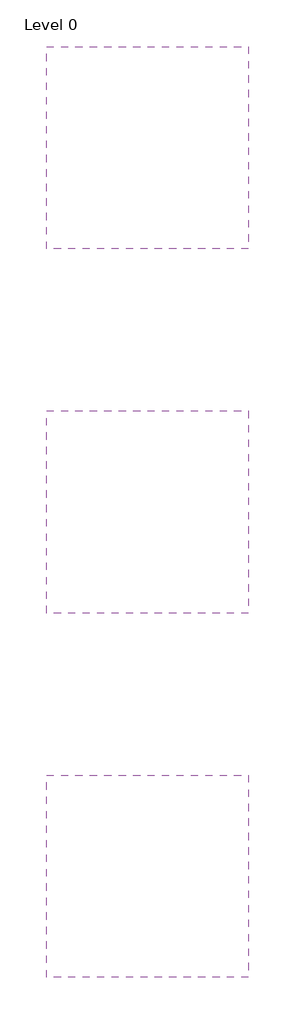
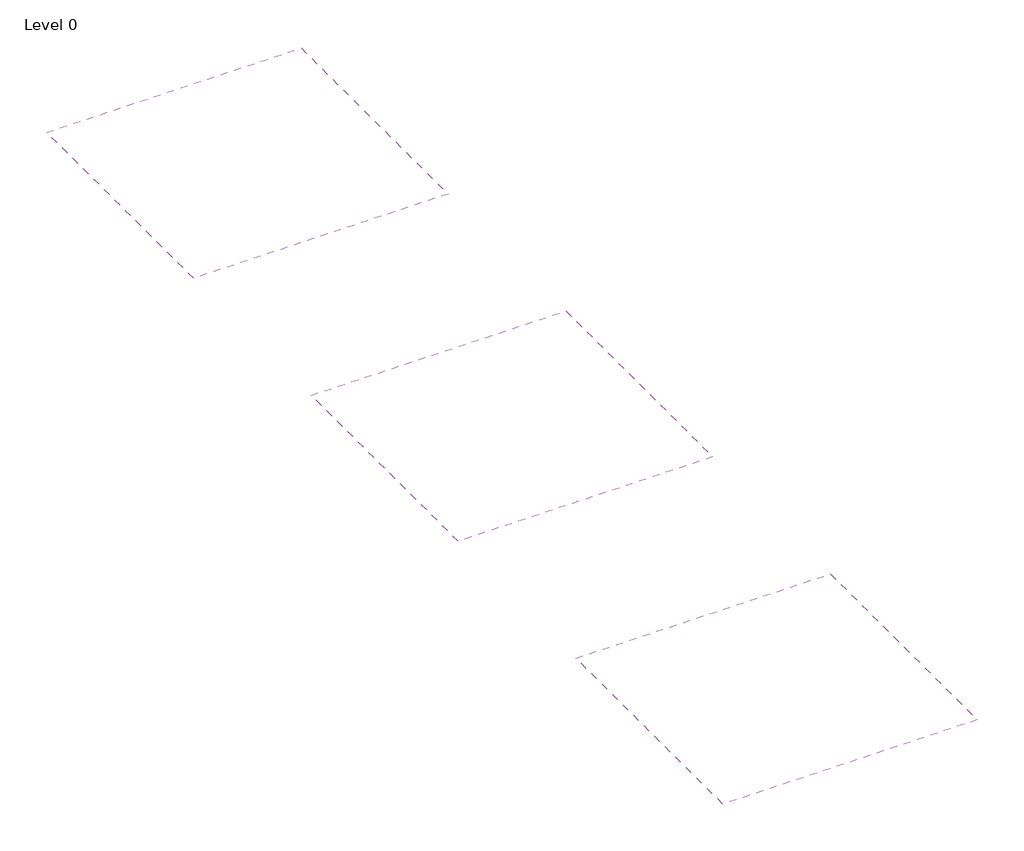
# One storey: 3 coverings.
"""IFC4 building model written with IfcOpenShell, lengths in millimetres."""

from ifc_helpers import new_model, si_unit, frame, origin, place, context, project, spatial, polyline, outline, extrude, element, save

model = new_model("IFC4")

# Units and contexts
model_context = context("Model", 3, world=origin())
ifc_project = project(units=[si_unit("LENGTHUNIT", "METRE", prefix="MILLI")], contexts=[model_context])

# Site, building, storey
site = spatial("IfcSite", under=ifc_project)
building = spatial("IfcBuilding", under=site)
storey = spatial("IfcBuildingStorey", under=building, Name="Level 0", Elevation=0.0)

# Coverings
placement = place(None, origin())
element("IfcCovering", 1, ObjectType="NBS_Zentia_ModularSuspendedCeilingSystems_BioblocPlain_BoardEdgeInfills", at=placement, inside=storey, context=model_context, shape_type="SweptSolid", body=[
    extrude(outline(polyline([(2999.979, -2332.2617974), (2999.979, -4832.2617974), (499.979, -4832.2617974), (499.979, -2332.2617974), (2999.979, -2332.2617974)])), frame((0.0, 0.0, 2600.0), z_axis=(0.0, 0.0, 1.0), x_axis=(1.0, 0.0, 0.0)), (0.0, 0.0, 1.0), 15.0),
])
element("IfcCovering", 2, ObjectType="NBS_Zentia_ModularSuspendedCeilingSystems_BioblocPlain_Tegular15EdgeInfills", at=placement, inside=storey, context=model_context, shape_type="SweptSolid", body=[
    extrude(outline(polyline([(2999.979, -6832.2617974), (2999.979, -9332.2617974), (499.979, -9332.2617974), (499.979, -6832.2617974), (2999.979, -6832.2617974)])), frame((0.0, 0.0, 2600.0), z_axis=(0.0, 0.0, 1.0), x_axis=(1.0, 0.0, 0.0)), (0.0, 0.0, 1.0), 15.0),
])
element("IfcCovering", 3, ObjectType="NBS_Zentia_ModularSuspendedCeilingSystems_BioblocPlain_Tegular24EdgeInfills", at=placement, inside=storey, context=model_context, shape_type="SweptSolid", body=[
    extrude(outline(polyline([(2999.979, -11332.2617974), (2999.979, -13832.2617974), (499.979, -13832.2617974), (499.979, -11332.2617974), (2999.979, -11332.2617974)])), frame((0.0, 0.0, 2600.0), z_axis=(0.0, 0.0, 1.0), x_axis=(1.0, 0.0, 0.0)), (0.0, 0.0, 1.0), 15.0),
])

save(model, "model.ifc")
